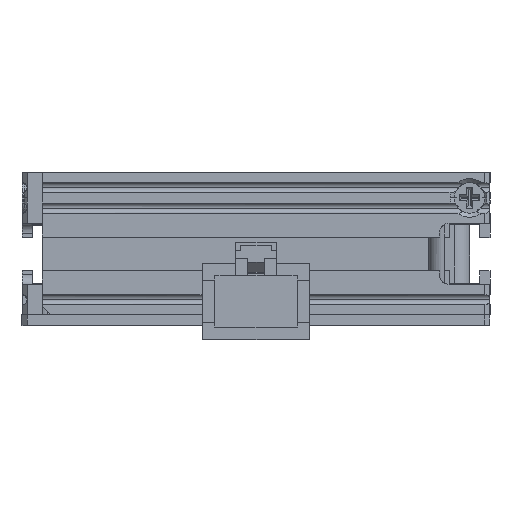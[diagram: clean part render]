
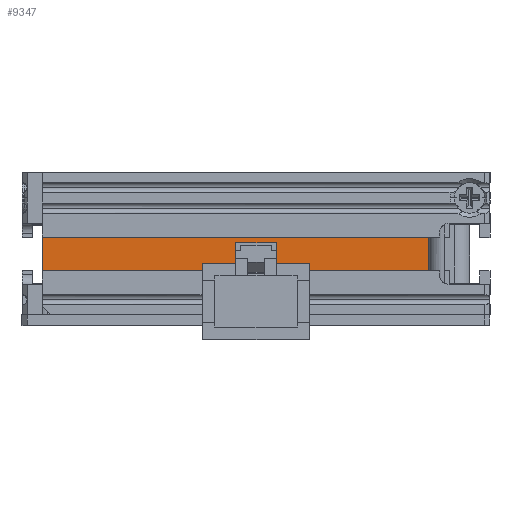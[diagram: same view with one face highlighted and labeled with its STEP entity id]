
A CAD part, top view. The second image highlights one B-rep face of the part: STEP entity #9347.
In plain terms, the highlighted planar face has unit normal (0, 0, 1).
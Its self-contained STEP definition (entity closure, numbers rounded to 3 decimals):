
#1246 = LINE ( 'NONE', #1379, #18342 ) ;
#1379 = CARTESIAN_POINT ( 'NONE',  ( -23., 8.65, 14.5 ) ) ;
#2081 = CARTESIAN_POINT ( 'NONE',  ( -23., 5.35, 14.5 ) ) ;
#3989 = DIRECTION ( 'NONE',  ( 0., 1., 0. ) ) ;
#4492 = LINE ( 'NONE', #2081, #10125 ) ;
#5421 = CARTESIAN_POINT ( 'NONE',  ( -21., 8.65, 14.5 ) ) ;
#6291 = CARTESIAN_POINT ( 'NONE',  ( 17., 8.65, 14.5 ) ) ;
#7397 = AXIS2_PLACEMENT_3D ( 'NONE', #21846, #17633, #19842 ) ;
#7657 = EDGE_LOOP ( 'NONE', ( #24757, #19724, #21028, #25159 ) ) ;
#8675 = EDGE_CURVE ( 'NONE', #14419, #26179, #1246, .T. ) ;
#8798 = EDGE_CURVE ( 'NONE', #11097, #14419, #22173, .T. ) ;
#9347 = ADVANCED_FACE ( 'NONE', ( #22120 ), #12766, .F. ) ;
#9935 = DIRECTION ( 'NONE',  ( 0., 1., 0. ) ) ;
#10125 = VECTOR ( 'NONE', #13330, 1000. ) ;
#10362 = DIRECTION ( 'NONE',  ( 1., 0., 0. ) ) ;
#11097 = VERTEX_POINT ( 'NONE', #27027 ) ;
#11177 = VERTEX_POINT ( 'NONE', #18539 ) ;
#12766 = PLANE ( 'NONE',  #7397 ) ;
#13330 = DIRECTION ( 'NONE',  ( 1., 0., 0. ) ) ;
#14419 = VERTEX_POINT ( 'NONE', #5421 ) ;
#15519 = EDGE_CURVE ( 'NONE', #11177, #26179, #19823, .T. ) ;
#17633 = DIRECTION ( 'NONE',  ( 0., 0., -1. ) ) ;
#18342 = VECTOR ( 'NONE', #10362, 1000. ) ;
#18539 = CARTESIAN_POINT ( 'NONE',  ( 17., 5.35, 14.5 ) ) ;
#19724 = ORIENTED_EDGE ( 'NONE', *, *, #15519, .T. ) ;
#19823 = LINE ( 'NONE', #23329, #20519 ) ;
#19842 = DIRECTION ( 'NONE',  ( -1., 0., 0. ) ) ;
#20519 = VECTOR ( 'NONE', #9935, 1000. ) ;
#21028 = ORIENTED_EDGE ( 'NONE', *, *, #8675, .F. ) ;
#21462 = VECTOR ( 'NONE', #3989, 1000. ) ;
#21846 = CARTESIAN_POINT ( 'NONE',  ( -23., 5.35, 14.5 ) ) ;
#22120 = FACE_OUTER_BOUND ( 'NONE', #7657, .T. ) ;
#22173 = LINE ( 'NONE', #26174, #21462 ) ;
#23329 = CARTESIAN_POINT ( 'NONE',  ( 17., 5.35, 14.5 ) ) ;
#24757 = ORIENTED_EDGE ( 'NONE', *, *, #25603, .T. ) ;
#25159 = ORIENTED_EDGE ( 'NONE', *, *, #8798, .F. ) ;
#25603 = EDGE_CURVE ( 'NONE', #11097, #11177, #4492, .T. ) ;
#26174 = CARTESIAN_POINT ( 'NONE',  ( -21., 1., 14.5 ) ) ;
#26179 = VERTEX_POINT ( 'NONE', #6291 ) ;
#27027 = CARTESIAN_POINT ( 'NONE',  ( -21., 5.35, 14.5 ) ) ;
